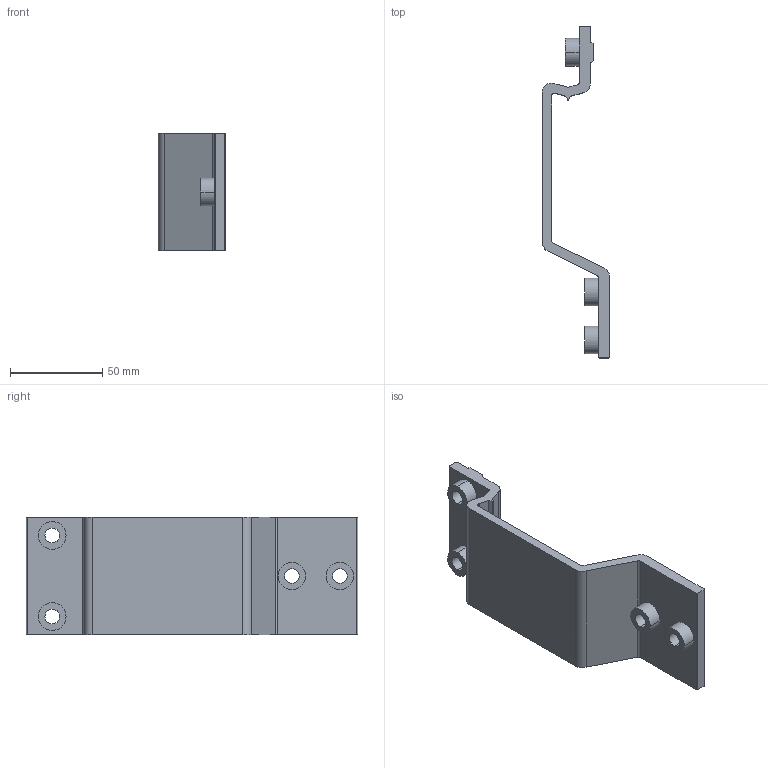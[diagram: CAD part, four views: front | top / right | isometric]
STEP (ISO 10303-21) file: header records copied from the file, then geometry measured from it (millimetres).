
FILE_DESCRIPTION (( 'STEP AP214' ), '1' );
FILE_NAME ('FAVBS 60M FA.step', '2017-04-05T08:00:10', ( '' ), ( '' ), 'SwSTEP 2.0', 'SolidWorks 2015', '' );
FILE_SCHEMA (( 'AUTOMOTIVE_DESIGN' ));
Length unit declared in the file: millimetre
Products named in the file (1): FAVBS 60M FA
Bounding box: 36.5 x 180 x 64 mm (x, y, z)
Volume: 78860.2 mm3; surface area: 33594 mm2
Topology: 1 solids, 1 shells, 60 faces, 162 edges, 108 vertices
Faces by surface type: cylinder 32, plane 28
Entity records: 1960 total; most frequent: DIRECTION 348, CARTESIAN_POINT 331, ORIENTED_EDGE 324, EDGE_CURVE 162, AXIS2_PLACEMENT_3D 125, VERTEX_POINT 108, VECTOR 98, LINE 98
